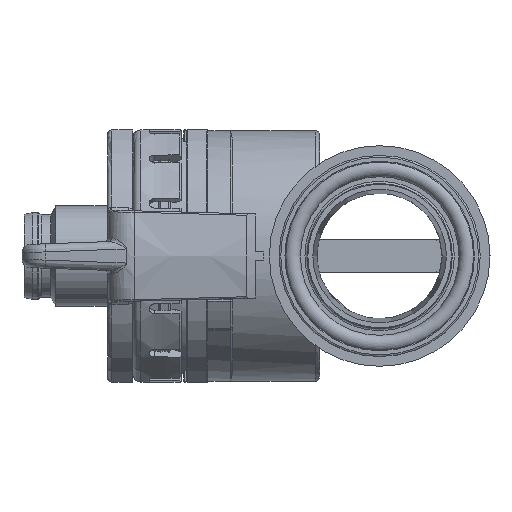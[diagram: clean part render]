
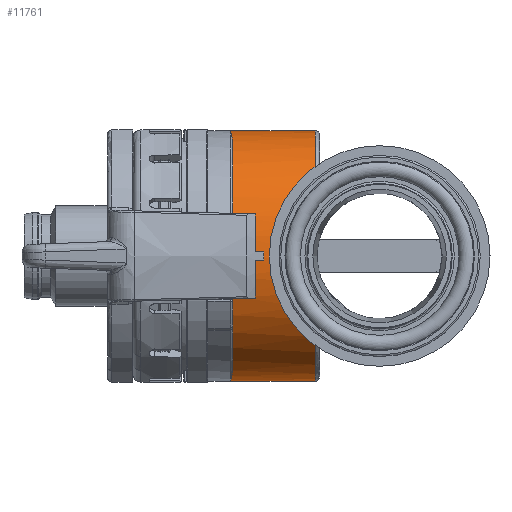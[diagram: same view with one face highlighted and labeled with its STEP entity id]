
A CAD part, left-side view. The second image highlights one B-rep face of the part: STEP entity #11761.
In plain terms, the highlighted cylindrical face has radius 15 mm (diameter 30 mm), a full revolution.
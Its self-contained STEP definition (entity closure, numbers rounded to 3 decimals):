
#9207=B_SPLINE_CURVE_WITH_KNOTS('',3,(#51475,#51476,#51477,#51478),
 .UNSPECIFIED.,.F.,.F.,(4,4),(0.,1.),.UNSPECIFIED.);
#9210=B_SPLINE_CURVE_WITH_KNOTS('',3,(#51511,#51512,#51513,#51514),
 .UNSPECIFIED.,.F.,.F.,(4,4),(0.,1.),.UNSPECIFIED.);
#9215=B_SPLINE_CURVE_WITH_KNOTS('',3,(#51623,#51624,#51625,#51626,#51627,
#51628,#51629,#51630,#51631,#51632,#51633,#51634,#51635,#51636),
 .UNSPECIFIED.,.F.,.F.,(4,2,2,2,2,2,4),(0.,0.125,0.25,0.5,0.625,0.75,1.),
 .UNSPECIFIED.);
#9216=B_SPLINE_CURVE_WITH_KNOTS('',3,(#51640,#51641,#51642,#51643,#51644,
#51645,#51646,#51647,#51648,#51649,#51650,#51651,#51652,#51653),
 .UNSPECIFIED.,.F.,.F.,(4,2,2,2,2,2,4),(0.,0.125,0.25,0.5,0.625,0.75,1.),
 .UNSPECIFIED.);
#9217=B_SPLINE_CURVE_WITH_KNOTS('',3,(#51654,#51655,#51656,#51657),
 .UNSPECIFIED.,.F.,.F.,(4,4),(0.,1.),.UNSPECIFIED.);
#9218=B_SPLINE_CURVE_WITH_KNOTS('',3,(#51658,#51659,#51660,#51661),
 .UNSPECIFIED.,.F.,.F.,(4,4),(0.,1.),.UNSPECIFIED.);
#9611=CYLINDRICAL_SURFACE('',#31561,15.);
#11761=ADVANCED_FACE('',(#12880,#12881),#9611,.T.);
#12880=FACE_BOUND('',#14066,.T.);
#12881=FACE_BOUND('',#14067,.T.);
#14066=EDGE_LOOP('',(#22314,#22315,#22316,#22317));
#14067=EDGE_LOOP('',(#22318,#22319,#22320,#22321,#22322,#22323));
#22314=ORIENTED_EDGE('',*,*,#28369,.T.);
#22315=ORIENTED_EDGE('',*,*,#28370,.T.);
#22316=ORIENTED_EDGE('',*,*,#28371,.T.);
#22317=ORIENTED_EDGE('',*,*,#28372,.T.);
#22318=ORIENTED_EDGE('',*,*,#28334,.T.);
#22319=ORIENTED_EDGE('',*,*,#28373,.T.);
#22320=ORIENTED_EDGE('',*,*,#28342,.T.);
#22321=ORIENTED_EDGE('',*,*,#28325,.T.);
#22322=ORIENTED_EDGE('',*,*,#28374,.T.);
#22323=ORIENTED_EDGE('',*,*,#28375,.T.);
#25449=VERTEX_POINT('',#51445);
#25455=VERTEX_POINT('',#51457);
#25457=VERTEX_POINT('',#51481);
#25463=VERTEX_POINT('',#51493);
#25472=VERTEX_POINT('',#51552);
#25497=VERTEX_POINT('',#51621);
#25498=VERTEX_POINT('',#51622);
#25499=VERTEX_POINT('',#51637);
#25500=VERTEX_POINT('',#51639);
#25501=VERTEX_POINT('',#51662);
#28325=EDGE_CURVE('',#25455,#25449,#9207,.T.);
#28334=EDGE_CURVE('',#25463,#25457,#9210,.T.);
#28342=EDGE_CURVE('',#25472,#25455,#29662,.T.);
#28369=EDGE_CURVE('',#25497,#25498,#29676,.T.);
#28370=EDGE_CURVE('',#25498,#25499,#9215,.T.);
#28371=EDGE_CURVE('',#25499,#25500,#29677,.T.);
#28372=EDGE_CURVE('',#25500,#25497,#9216,.T.);
#28373=EDGE_CURVE('',#25457,#25472,#9217,.T.);
#28374=EDGE_CURVE('',#25449,#25501,#9218,.T.);
#28375=EDGE_CURVE('',#25501,#25463,#29678,.T.);
#29662=CIRCLE('',#31538,15.);
#29676=CIRCLE('',#31558,15.);
#29677=CIRCLE('',#31559,15.);
#29678=CIRCLE('',#31560,15.);
#31538=AXIS2_PLACEMENT_3D('',#51551,#36580,#36581);
#31558=AXIS2_PLACEMENT_3D('',#51620,#36630,#36631);
#31559=AXIS2_PLACEMENT_3D('',#51638,#36632,#36633);
#31560=AXIS2_PLACEMENT_3D('',#51663,#36634,#36635);
#31561=AXIS2_PLACEMENT_3D('',#51664,#36636,#36637);
#36580=DIRECTION('',(0.,-1.,0.));
#36581=DIRECTION('',(0.,0.,-1.));
#36630=DIRECTION('',(0.,1.,0.));
#36631=DIRECTION('',(0.,0.,-1.));
#36632=DIRECTION('',(0.,1.,0.));
#36633=DIRECTION('',(0.,0.,-1.));
#36634=DIRECTION('',(0.,-1.,0.));
#36635=DIRECTION('',(0.,0.,-1.));
#36636=DIRECTION('',(0.,-1.,0.));
#36637=DIRECTION('',(0.,0.,1.));
#51445=CARTESIAN_POINT('',(0.,-2.15,-15.));
#51457=CARTESIAN_POINT('',(-6.066,-2.4,-13.719));
#51475=CARTESIAN_POINT('',(-6.066,-2.4,-13.719));
#51476=CARTESIAN_POINT('',(-4.147,-2.233,-14.567));
#51477=CARTESIAN_POINT('',(-2.106,-2.15,-15.));
#51478=CARTESIAN_POINT('',(0.,-2.15,-15.));
#51481=CARTESIAN_POINT('',(0.,-2.15,15.));
#51493=CARTESIAN_POINT('',(6.066,-2.4,13.719));
#51511=CARTESIAN_POINT('',(6.066,-2.4,13.719));
#51512=CARTESIAN_POINT('',(4.147,-2.233,14.567));
#51513=CARTESIAN_POINT('',(2.106,-2.15,15.));
#51514=CARTESIAN_POINT('',(0.,-2.15,15.));
#51551=CARTESIAN_POINT('',(0.,-2.4,0.));
#51552=CARTESIAN_POINT('',(-6.066,-2.4,13.719));
#51620=CARTESIAN_POINT('',(0.,-12.3,0.));
#51621=CARTESIAN_POINT('',(12.931,-12.3,-7.602));
#51622=CARTESIAN_POINT('',(-12.931,-12.3,-7.602));
#51623=CARTESIAN_POINT('',(-12.931,-12.3,-7.602));
#51624=CARTESIAN_POINT('',(-13.218,-11.785,-7.114));
#51625=CARTESIAN_POINT('',(-13.49,-11.328,-6.588));
#51626=CARTESIAN_POINT('',(-13.984,-10.529,-5.461));
#51627=CARTESIAN_POINT('',(-14.195,-10.204,-4.897));
#51628=CARTESIAN_POINT('',(-14.79,-9.299,-2.872));
#51629=CARTESIAN_POINT('',(-15.001,-8.999,-1.437));
#51630=CARTESIAN_POINT('',(-15.,-9.001,0.733));
#51631=CARTESIAN_POINT('',(-14.947,-9.076,1.451));
#51632=CARTESIAN_POINT('',(-14.742,-9.378,2.861));
#51633=CARTESIAN_POINT('',(-14.579,-9.619,3.589));
#51634=CARTESIAN_POINT('',(-14.018,-10.473,5.5));
#51635=CARTESIAN_POINT('',(-13.504,-11.272,6.627));
#51636=CARTESIAN_POINT('',(-12.931,-12.3,7.602));
#51637=CARTESIAN_POINT('',(-12.931,-12.3,7.602));
#51638=CARTESIAN_POINT('',(0.,-12.3,0.));
#51639=CARTESIAN_POINT('',(12.931,-12.3,7.602));
#51640=CARTESIAN_POINT('',(12.931,-12.3,7.602));
#51641=CARTESIAN_POINT('',(13.218,-11.785,7.114));
#51642=CARTESIAN_POINT('',(13.49,-11.328,6.588));
#51643=CARTESIAN_POINT('',(13.984,-10.529,5.461));
#51644=CARTESIAN_POINT('',(14.195,-10.204,4.897));
#51645=CARTESIAN_POINT('',(14.79,-9.299,2.872));
#51646=CARTESIAN_POINT('',(15.001,-8.999,1.437));
#51647=CARTESIAN_POINT('',(15.,-9.001,-0.733));
#51648=CARTESIAN_POINT('',(14.947,-9.076,-1.451));
#51649=CARTESIAN_POINT('',(14.742,-9.378,-2.861));
#51650=CARTESIAN_POINT('',(14.579,-9.619,-3.589));
#51651=CARTESIAN_POINT('',(14.018,-10.473,-5.5));
#51652=CARTESIAN_POINT('',(13.504,-11.272,-6.627));
#51653=CARTESIAN_POINT('',(12.931,-12.3,-7.602));
#51654=CARTESIAN_POINT('',(0.,-2.15,15.));
#51655=CARTESIAN_POINT('',(-2.107,-2.15,15.));
#51656=CARTESIAN_POINT('',(-4.146,-2.233,14.568));
#51657=CARTESIAN_POINT('',(-6.066,-2.4,13.719));
#51658=CARTESIAN_POINT('',(0.,-2.15,-15.));
#51659=CARTESIAN_POINT('',(2.107,-2.15,-15.));
#51660=CARTESIAN_POINT('',(4.146,-2.233,-14.568));
#51661=CARTESIAN_POINT('',(6.066,-2.4,-13.719));
#51662=CARTESIAN_POINT('',(6.066,-2.4,-13.719));
#51663=CARTESIAN_POINT('',(0.,-2.4,0.));
#51664=CARTESIAN_POINT('',(0.,-20.,0.));
